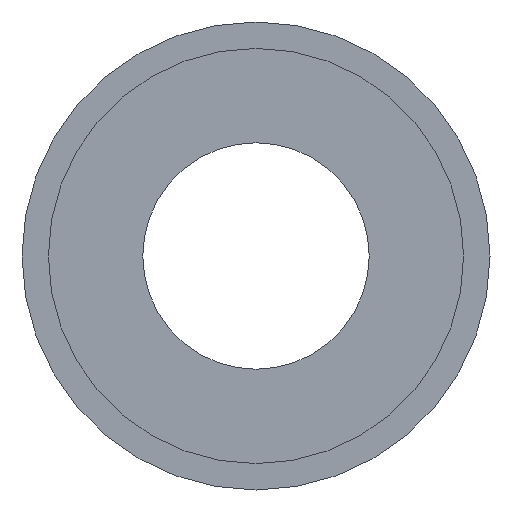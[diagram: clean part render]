
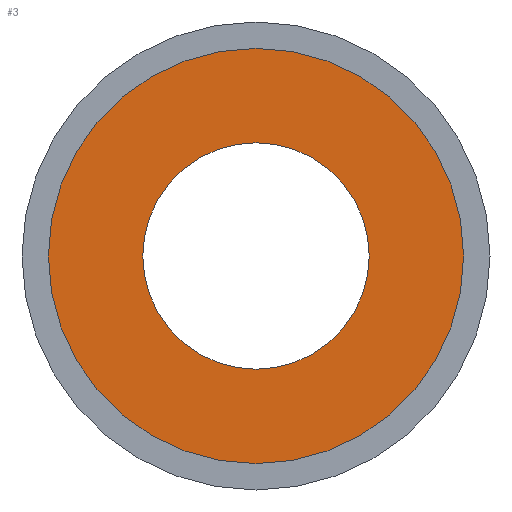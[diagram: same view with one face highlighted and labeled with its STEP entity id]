
A CAD part, front view. The second image highlights one B-rep face of the part: STEP entity #3.
In plain terms, the highlighted planar face has unit normal (0, -1, 0).
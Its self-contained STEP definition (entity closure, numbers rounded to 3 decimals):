
#3 = ADVANCED_FACE ( 'NONE', ( #608, #1461 ), #260, .F. ) ;
#70 = VERTEX_POINT ( 'NONE', #1830 ) ;
#81 = DIRECTION ( 'NONE',  ( 0., 0., -1. ) ) ;
#108 = DIRECTION ( 'NONE',  ( 0., 0., 1. ) ) ;
#161 = CARTESIAN_POINT ( 'NONE',  ( 0., -15., 27.5 ) ) ;
#166 = ORIENTED_EDGE ( 'NONE', *, *, #303, .T. ) ;
#214 = CARTESIAN_POINT ( 'NONE',  ( 0., -15., -15. ) ) ;
#240 = CIRCLE ( 'NONE', #828, 15. ) ;
#260 = PLANE ( 'NONE',  #514 ) ;
#303 = EDGE_CURVE ( 'NONE', #638, #1147, #1182, .T. ) ;
#366 = CARTESIAN_POINT ( 'NONE',  ( 0., -15., 0. ) ) ;
#372 = DIRECTION ( 'NONE',  ( 0., -1., 0. ) ) ;
#373 = CARTESIAN_POINT ( 'NONE',  ( 0., -15., 0. ) ) ;
#514 = AXIS2_PLACEMENT_3D ( 'NONE', #1838, #1529, #108 ) ;
#534 = AXIS2_PLACEMENT_3D ( 'NONE', #366, #372, #710 ) ;
#608 = FACE_BOUND ( 'NONE', #1255, .T. ) ;
#638 = VERTEX_POINT ( 'NONE', #1535 ) ;
#703 = DIRECTION ( 'NONE',  ( 0., 0., -1. ) ) ;
#710 = DIRECTION ( 'NONE',  ( 0., 0., -1. ) ) ;
#723 = CIRCLE ( 'NONE', #534, 27.5 ) ;
#828 = AXIS2_PLACEMENT_3D ( 'NONE', #373, #1152, #703 ) ;
#849 = ORIENTED_EDGE ( 'NONE', *, *, #1626, .T. ) ;
#850 = EDGE_CURVE ( 'NONE', #70, #1379, #240, .T. ) ;
#914 = EDGE_CURVE ( 'NONE', #1379, #70, #1598, .T. ) ;
#1034 = AXIS2_PLACEMENT_3D ( 'NONE', #1505, #1057, #81 ) ;
#1057 = DIRECTION ( 'NONE',  ( 0., -1., 0. ) ) ;
#1147 = VERTEX_POINT ( 'NONE', #161 ) ;
#1152 = DIRECTION ( 'NONE',  ( 0., -1., 0. ) ) ;
#1182 = CIRCLE ( 'NONE', #1415, 27.5 ) ;
#1185 = ORIENTED_EDGE ( 'NONE', *, *, #850, .F. ) ;
#1255 = EDGE_LOOP ( 'NONE', ( #2029, #1185 ) ) ;
#1315 = CARTESIAN_POINT ( 'NONE',  ( 0., -15., 0. ) ) ;
#1356 = EDGE_LOOP ( 'NONE', ( #166, #849 ) ) ;
#1379 = VERTEX_POINT ( 'NONE', #214 ) ;
#1415 = AXIS2_PLACEMENT_3D ( 'NONE', #1315, #1926, #1632 ) ;
#1461 = FACE_OUTER_BOUND ( 'NONE', #1356, .T. ) ;
#1505 = CARTESIAN_POINT ( 'NONE',  ( 0., -15., 0. ) ) ;
#1529 = DIRECTION ( 'NONE',  ( 0., 1., 0. ) ) ;
#1535 = CARTESIAN_POINT ( 'NONE',  ( 0., -15., -27.5 ) ) ;
#1598 = CIRCLE ( 'NONE', #1034, 15. ) ;
#1626 = EDGE_CURVE ( 'NONE', #1147, #638, #723, .T. ) ;
#1632 = DIRECTION ( 'NONE',  ( 0., 0., -1. ) ) ;
#1830 = CARTESIAN_POINT ( 'NONE',  ( 0., -15., 15. ) ) ;
#1838 = CARTESIAN_POINT ( 'NONE',  ( 0., -15., 15. ) ) ;
#1926 = DIRECTION ( 'NONE',  ( 0., -1., 0. ) ) ;
#2029 = ORIENTED_EDGE ( 'NONE', *, *, #914, .F. ) ;
